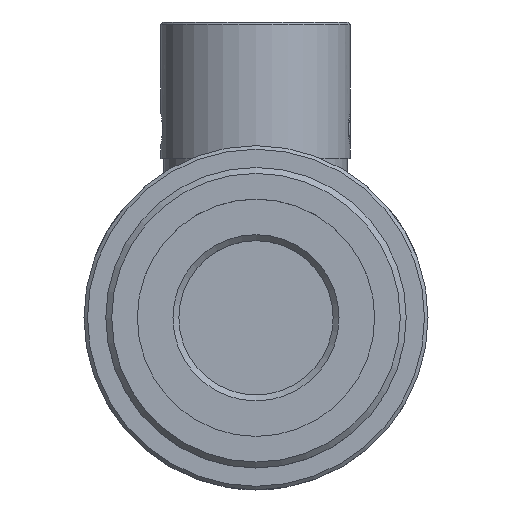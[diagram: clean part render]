
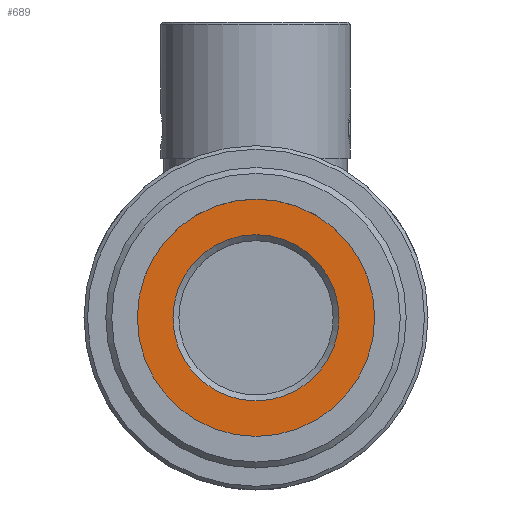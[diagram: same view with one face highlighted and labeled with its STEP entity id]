
A CAD part, top view. The second image highlights one B-rep face of the part: STEP entity #689.
In plain terms, the highlighted planar face has unit normal (0, 0, 1).
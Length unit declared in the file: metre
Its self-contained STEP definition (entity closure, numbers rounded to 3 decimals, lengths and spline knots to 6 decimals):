
#689=ADVANCED_FACE('1:16380',(#1687,#1688),#1689,.F.);
#1687=FACE_BOUND('',#3041,.T.);
#1688=FACE_OUTER_BOUND('',#3042,.T.);
#1689=PLANE('',#3043);
#3041=EDGE_LOOP('',(#5002));
#3042=EDGE_LOOP('',(#5003));
#3043=AXIS2_PLACEMENT_3D('',#5004,#5005,#5006);
#5002=ORIENTED_EDGE('',*,*,#7543,.T.);
#5003=ORIENTED_EDGE('',*,*,#7544,.F.);
#5004=CARTESIAN_POINT('',(0.005316,0.004729,0.04685));
#5005=DIRECTION('',(0.,0.0,-1.0));
#5006=DIRECTION('',(-1.0,0.0,0.));
#7543=EDGE_CURVE('1:16500',#8944,#8944,#8945,.T.);
#7544=EDGE_CURVE('1:16467',#8946,#8946,#8947,.T.);
#8944=VERTEX_POINT('',#11145);
#8945=CIRCLE('',#11146,0.007);
#8946=VERTEX_POINT('',#11147);
#8947=CIRCLE('',#11148,0.01);
#11145=CARTESIAN_POINT('',(-0.001684,-0.005271,0.04685));
#11146=AXIS2_PLACEMENT_3D('',#13407,#13408,#13409);
#11147=CARTESIAN_POINT('',(-0.004684,-0.005271,0.04685));
#11148=AXIS2_PLACEMENT_3D('',#13410,#13411,#13412);
#13407=CARTESIAN_POINT('',(0.005316,-0.005271,0.04685));
#13408=DIRECTION('',(0.,0.0,-1.0));
#13409=DIRECTION('',(-1.0,0.0,0.));
#13410=CARTESIAN_POINT('',(0.005316,-0.005271,0.04685));
#13411=DIRECTION('',(0.,0.0,-1.0));
#13412=DIRECTION('',(-1.0,0.0,0.));
